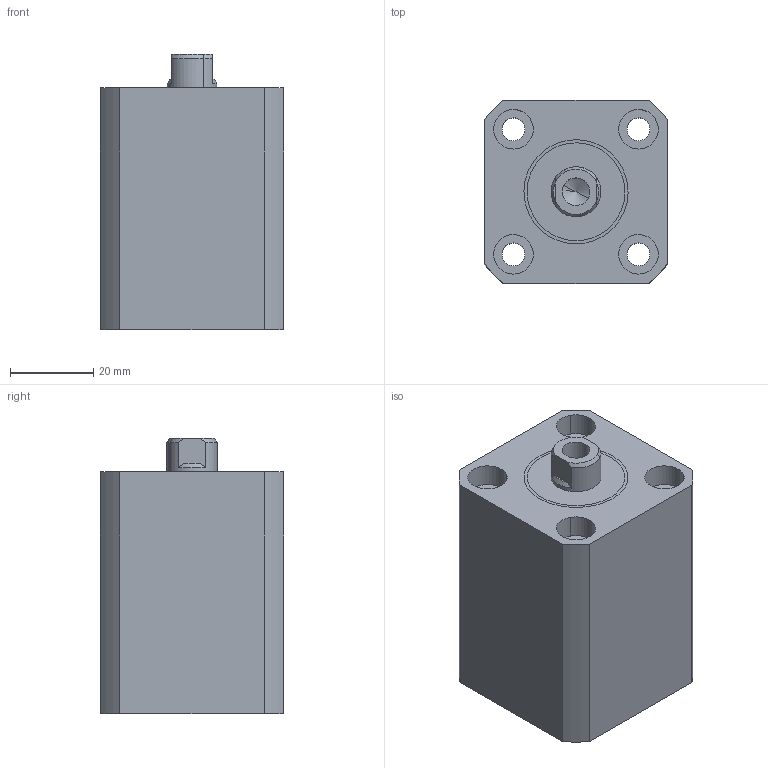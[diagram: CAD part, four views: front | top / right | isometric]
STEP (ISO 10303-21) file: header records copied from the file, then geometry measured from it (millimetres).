
FILE_DESCRIPTION(('CATIA V5 STEP Exchange'),'2;1');
FILE_NAME('\\Kjf-102\kjf_tc\Hydraulic_Clamp\Standard\BLOCK_CLAMP\BDV-20xx\Rev_B\배포도면\BDV-2015_B.stp','2025-03-14T03:21:26+00:00',('none'),('none'),'CATIA Version 5 Release 19 SP 6 (IN-10)','CATIA V5 STEP AP203','none');
FILE_SCHEMA(('CONFIG_CONTROL_DESIGN'));
Length unit declared in the file: millimetre
Products named in the file (1): BDV-20xx_B
Assembly tree (3 placements, depth 2):
  BDV-20xx_B
    #58
    #1356
    #1942
Bounding box: 44 x 44 x 66 mm (x, y, z)
Volume: 91854.1 mm3; surface area: 27593.6 mm2
Topology: 3 solids, 3 shells, 81 faces, 182 edges, 119 vertices
Faces by surface type: cylinder 46, plane 27, cone 8
Entity records: 2165 total; most frequent: CARTESIAN_POINT 391, ORIENTED_EDGE 360, DIRECTION 276, EDGE_CURVE 180, AXIS2_PLACEMENT_3D 154, VERTEX_POINT 119, EDGE_LOOP 105, CIRCLE 102
